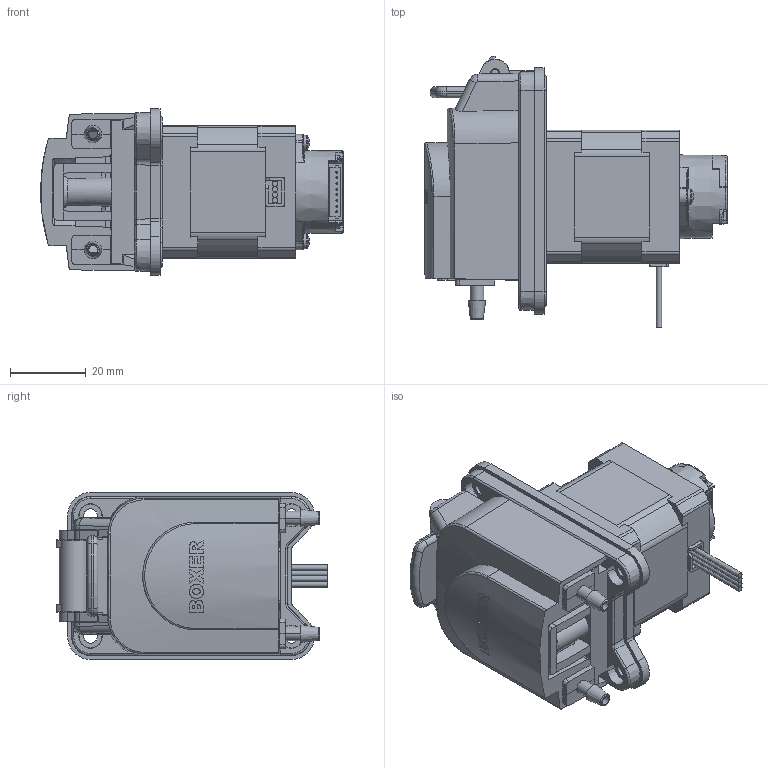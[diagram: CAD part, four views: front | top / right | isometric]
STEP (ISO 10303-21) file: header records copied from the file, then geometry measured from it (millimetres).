
FILE_DESCRIPTION (( 'STEP AP203' ), '1' );
FILE_NAME ('9802.9x0_9QQ+Enc.STEP', '2024-06-14T17:58:43', ( '' ), ( '' ), 'SwSTEP 2.0', 'SolidWorks 2021', '' );
FILE_SCHEMA (( 'CONFIG_CONTROL_DESIGN' ));
Length unit declared in the file: millimetre
Products named in the file (10): K0967_15KS_2.5x24_DowelPin; 9000.3011_Rev01_9QQFrontCover; 3937_Rev00_3x5_Tube_Connector; 9000.3045_Rev00_9QQ_StepperPlateCombi_Shaped; 9000.3048_Rev02_9QQ_GasketForCombiPlate; 1678_Soyo_NU35STH36-1004A_Encoder_with Encoder; 9000.3014_Rev01_9QQRollerSupport_Version B; pan head cross recess screw_iso_ISO 7045 - M3 x 8 - Z - 8C; 9000.3013_Rev00_Lever; 9802.9x0_9QQ+Enc
Assembly tree (13 placements, depth 2):
  9802.9x0_9QQ+Enc
    9000.3045_Rev00_9QQ_StepperPlateCombi_Shaped
    1678_Soyo_NU35STH36-1004A_Encoder_with Encoder
    pan head cross recess screw_iso_ISO 7045 - M3 x 8 - Z - 8C  x4
    9000.3013_Rev00_Lever
    9000.3014_Rev01_9QQRollerSupport_Version B
    9000.3011_Rev01_9QQFrontCover
    K0967_15KS_2.5x24_DowelPin
    3937_Rev00_3x5_Tube_Connector  x2
    9000.3048_Rev02_9QQ_GasketForCombiPlate
Bounding box: 79.75 x 71.5 x 44 mm (x, y, z)
Volume: 78853.6 mm3; surface area: 45710.5 mm2
Topology: 19 solids, 21 shells, 1938 faces, 4793 edges, 2964 vertices
Faces by surface type: plane 908, cylinder 435, bspline 223, cone 173, torus 123, sphere 76
Full cylindrical faces by diameter (mm): 0.5 x16, 1.2 x2, 1.4 x4, 2 x5, 2.4 x2, 2.5 x12, 2.6 x1, 2.95 x2, 3 x6, 3.2 x4, 3.5 x9, 4 x3, 5 x5, 5.2 x1, 5.6 x4, 5.8 x4, 6 x1, 7 x1, 7.5 x1, 10 x1, 12 x1, 22 x2, 22.2 x1
Entity records: 59514 total; most frequent: CARTESIAN_POINT 19043, ORIENTED_EDGE 8398, DIRECTION 7792, EDGE_CURVE 4199, AXIS2_PLACEMENT_3D 2909, VERTEX_POINT 2670, EDGE_LOOP 2023, VECTOR 1974
